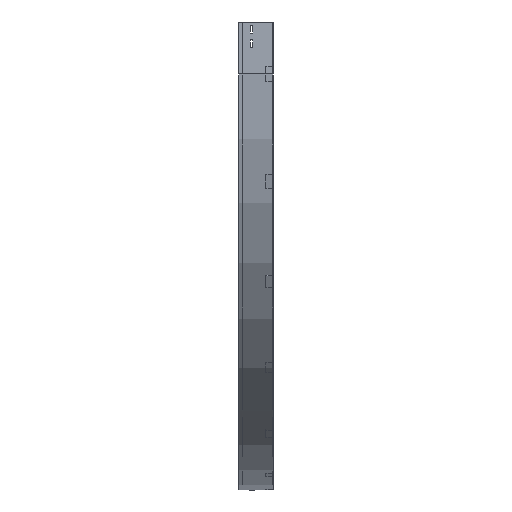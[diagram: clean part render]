
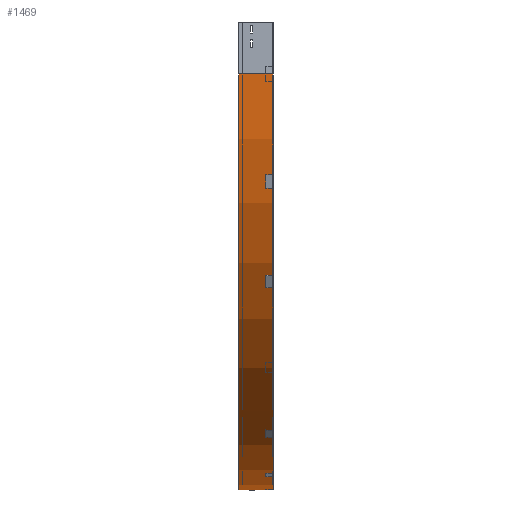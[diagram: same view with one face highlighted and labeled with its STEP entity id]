
A CAD part, left-side view. The second image highlights one B-rep face of the part: STEP entity #1469.
In plain terms, the highlighted cylindrical face has radius 1200 mm (diameter 2400 mm), a partial arc.
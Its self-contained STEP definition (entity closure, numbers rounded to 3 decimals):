
#43 = VECTOR ( 'NONE', #3805, 1000. ) ;
#178 = ORIENTED_EDGE ( 'NONE', *, *, #3801, .T. ) ;
#280 = FACE_OUTER_BOUND ( 'NONE', #2103, .T. ) ;
#522 = DIRECTION ( 'NONE',  ( 0., 0., -1. ) ) ;
#801 = AXIS2_PLACEMENT_3D ( 'NONE', #3080, #1247, #1281 ) ;
#859 = ORIENTED_EDGE ( 'NONE', *, *, #3313, .T. ) ;
#867 = VECTOR ( 'NONE', #1050, 1000. ) ;
#887 = CYLINDRICAL_SURFACE ( 'NONE', #2079, 1200. ) ;
#1050 = DIRECTION ( 'NONE',  ( 0., -1., 0. ) ) ;
#1165 = CARTESIAN_POINT ( 'NONE',  ( 1200., 0., -1350. ) ) ;
#1177 = AXIS2_PLACEMENT_3D ( 'NONE', #3177, #3152, #2518 ) ;
#1192 = CARTESIAN_POINT ( 'NONE',  ( 0., 100., -150. ) ) ;
#1209 = CARTESIAN_POINT ( 'NONE',  ( 0., 0., -150. ) ) ;
#1247 = DIRECTION ( 'NONE',  ( 0., -1., 0. ) ) ;
#1281 = DIRECTION ( 'NONE',  ( -1., 0., 0. ) ) ;
#1469 = ADVANCED_FACE ( 'NONE', ( #280 ), #887, .T. ) ;
#1703 = CARTESIAN_POINT ( 'NONE',  ( 0., 0., -150. ) ) ;
#1807 = CIRCLE ( 'NONE', #1177, 1200. ) ;
#2034 = ORIENTED_EDGE ( 'NONE', *, *, #2674, .F. ) ;
#2079 = AXIS2_PLACEMENT_3D ( 'NONE', #2090, #3002, #522 ) ;
#2090 = CARTESIAN_POINT ( 'NONE',  ( 1200., 0., -150. ) ) ;
#2103 = EDGE_LOOP ( 'NONE', ( #3033, #2034, #859, #178 ) ) ;
#2338 = CARTESIAN_POINT ( 'NONE',  ( 1200., 100., -1350. ) ) ;
#2515 = LINE ( 'NONE', #1703, #43 ) ;
#2518 = DIRECTION ( 'NONE',  ( -1., 0., 0. ) ) ;
#2674 = EDGE_CURVE ( 'NONE', #3751, #2837, #2515, .T. ) ;
#2837 = VERTEX_POINT ( 'NONE', #1209 ) ;
#2856 = LINE ( 'NONE', #3424, #867 ) ;
#2931 = VERTEX_POINT ( 'NONE', #1165 ) ;
#3002 = DIRECTION ( 'NONE',  ( 0., -1., 0. ) ) ;
#3033 = ORIENTED_EDGE ( 'NONE', *, *, #3847, .F. ) ;
#3080 = CARTESIAN_POINT ( 'NONE',  ( 1200., 100., -150. ) ) ;
#3152 = DIRECTION ( 'NONE',  ( 0., -1., 0. ) ) ;
#3177 = CARTESIAN_POINT ( 'NONE',  ( 1200., 0., -150. ) ) ;
#3313 = EDGE_CURVE ( 'NONE', #3751, #3477, #3322, .T. ) ;
#3322 = CIRCLE ( 'NONE', #801, 1200. ) ;
#3424 = CARTESIAN_POINT ( 'NONE',  ( 1200., 0., -1350. ) ) ;
#3477 = VERTEX_POINT ( 'NONE', #2338 ) ;
#3751 = VERTEX_POINT ( 'NONE', #1192 ) ;
#3801 = EDGE_CURVE ( 'NONE', #3477, #2931, #2856, .T. ) ;
#3805 = DIRECTION ( 'NONE',  ( 0., -1., 0. ) ) ;
#3847 = EDGE_CURVE ( 'NONE', #2837, #2931, #1807, .T. ) ;
